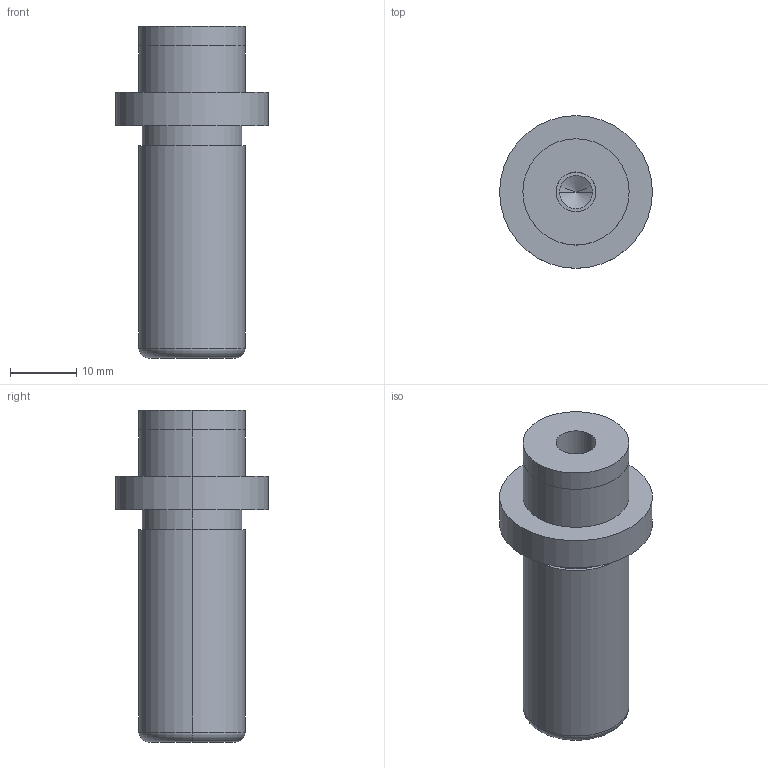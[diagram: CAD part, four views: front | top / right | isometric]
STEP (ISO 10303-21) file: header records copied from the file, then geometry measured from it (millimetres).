
FILE_DESCRIPTION(/* description */ (''),/* implementation_level */ '2;1');
FILE_NAME(/* name */ '3d_sgpw16-40_05273_r00.stp',/* time_stamp */ '2011-01-10T14:11:05+09:00',/* author */ ('MISUMI'),/* organization */ (''),/* preprocessor_version */ 'ST-DEVELOPER v11',/* originating_system */ 'UGS - NX 5.0',/* authorisation */ '');
FILE_SCHEMA (('CONFIG_CONTROL_DESIGN'));
Length unit declared in the file: millimetre
Products named in the file (1): 3d_sgpw16-40_05273_r00
Bounding box: 23 x 23 x 50 mm (x, y, z)
Volume: 10224.6 mm3; surface area: 4000.2 mm2
Topology: 1 solids, 1 shells, 31 faces, 64 edges, 38 vertices
Faces by surface type: cylinder 18, plane 7, cone 4, torus 2
Entity records: 890 total; most frequent: DIRECTION 162, CARTESIAN_POINT 130, ORIENTED_EDGE 120, AXIS2_PLACEMENT_3D 70, EDGE_CURVE 60, EDGE_LOOP 38, CIRCLE 38, VERTEX_POINT 38
